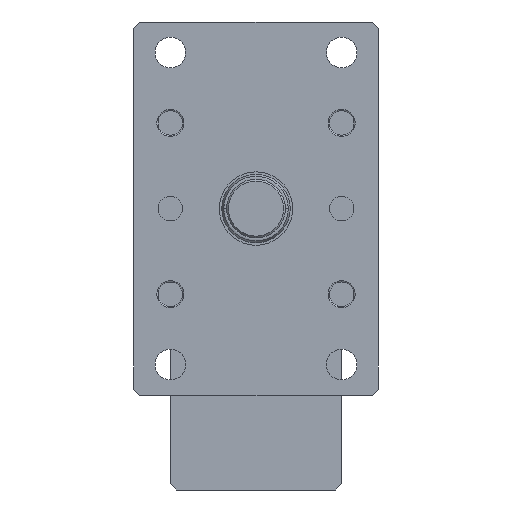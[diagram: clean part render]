
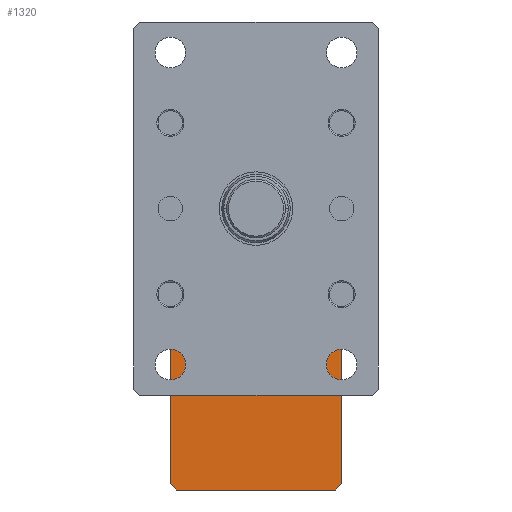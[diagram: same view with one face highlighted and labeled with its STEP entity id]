
A CAD part, left-side view. The second image highlights one B-rep face of the part: STEP entity #1320.
In plain terms, the highlighted planar face has unit normal (-1, 0, 0).
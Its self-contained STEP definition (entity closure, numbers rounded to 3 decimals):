
#4 = VECTOR ( 'NONE', #2817, 1000. ) ;
#99 = CARTESIAN_POINT ( 'NONE',  ( 377.5, 70., -90. ) ) ;
#165 = CARTESIAN_POINT ( 'NONE',  ( 377.5, -70., -95. ) ) ;
#222 = ORIENTED_EDGE ( 'NONE', *, *, #819, .F. ) ;
#248 = EDGE_CURVE ( 'NONE', #4276, #3693, #7066, .T. ) ;
#258 = CARTESIAN_POINT ( 'NONE',  ( 377.5, -70., -95. ) ) ;
#341 = ORIENTED_EDGE ( 'NONE', *, *, #792, .F. ) ;
#345 = EDGE_CURVE ( 'NONE', #4637, #1041, #6196, .T. ) ;
#759 = CARTESIAN_POINT ( 'NONE',  ( 377.5, 65., -230. ) ) ;
#792 = EDGE_CURVE ( 'NONE', #8256, #1585, #4977, .T. ) ;
#819 = EDGE_CURVE ( 'NONE', #1870, #1041, #1302, .T. ) ;
#1041 = VERTEX_POINT ( 'NONE', #7412 ) ;
#1244 = ORIENTED_EDGE ( 'NONE', *, *, #6727, .T. ) ;
#1291 = DIRECTION ( 'NONE',  ( 0., 0., 1. ) ) ;
#1302 = LINE ( 'NONE', #4748, #4771 ) ;
#1320 = ADVANCED_FACE ( 'NONE', ( #3121 ), #6019, .F. ) ;
#1490 = DIRECTION ( 'NONE',  ( 0., 1., 0. ) ) ;
#1577 = VECTOR ( 'NONE', #6338, 1000. ) ;
#1578 = ORIENTED_EDGE ( 'NONE', *, *, #345, .T. ) ;
#1585 = VERTEX_POINT ( 'NONE', #7246 ) ;
#1870 = VERTEX_POINT ( 'NONE', #5321 ) ;
#1979 = LINE ( 'NONE', #759, #7248 ) ;
#2029 = DIRECTION ( 'NONE',  ( 0., 0.707, -0.707 ) ) ;
#2370 = CARTESIAN_POINT ( 'NONE',  ( 377.5, -70., -230. ) ) ;
#2597 = DIRECTION ( 'NONE',  ( 0., 1., 0. ) ) ;
#2810 = ORIENTED_EDGE ( 'NONE', *, *, #6207, .T. ) ;
#2817 = DIRECTION ( 'NONE',  ( 0., -0.707, 0.707 ) ) ;
#3033 = EDGE_LOOP ( 'NONE', ( #5260, #6355, #1244, #1578, #222, #2810, #341, #4857 ) ) ;
#3121 = FACE_OUTER_BOUND ( 'NONE', #3033, .T. ) ;
#3314 = VERTEX_POINT ( 'NONE', #6482 ) ;
#3339 = CARTESIAN_POINT ( 'NONE',  ( 377.5, 70., -230. ) ) ;
#3396 = LINE ( 'NONE', #99, #3811 ) ;
#3440 = CARTESIAN_POINT ( 'NONE',  ( 377.5, 70., -95. ) ) ;
#3533 = CARTESIAN_POINT ( 'NONE',  ( 377.5, -65., -230. ) ) ;
#3681 = LINE ( 'NONE', #3533, #4 ) ;
#3693 = VERTEX_POINT ( 'NONE', #3751 ) ;
#3751 = CARTESIAN_POINT ( 'NONE',  ( 377.5, -65., -90. ) ) ;
#3811 = VECTOR ( 'NONE', #1490, 1000. ) ;
#3839 = CARTESIAN_POINT ( 'NONE',  ( 377.5, -65., -230. ) ) ;
#4276 = VERTEX_POINT ( 'NONE', #258 ) ;
#4637 = VERTEX_POINT ( 'NONE', #7079 ) ;
#4748 = CARTESIAN_POINT ( 'NONE',  ( 377.5, 70., -230. ) ) ;
#4771 = VECTOR ( 'NONE', #1291, 1000. ) ;
#4857 = ORIENTED_EDGE ( 'NONE', *, *, #5067, .T. ) ;
#4977 = LINE ( 'NONE', #3339, #8618 ) ;
#5053 = LINE ( 'NONE', #2370, #8476 ) ;
#5067 = EDGE_CURVE ( 'NONE', #8256, #3314, #3681, .T. ) ;
#5260 = ORIENTED_EDGE ( 'NONE', *, *, #7761, .T. ) ;
#5295 = AXIS2_PLACEMENT_3D ( 'NONE', #6700, #6734, #2597 ) ;
#5321 = CARTESIAN_POINT ( 'NONE',  ( 377.5, 70., -225. ) ) ;
#6019 = PLANE ( 'NONE',  #5295 ) ;
#6196 = LINE ( 'NONE', #3440, #8255 ) ;
#6207 = EDGE_CURVE ( 'NONE', #1870, #1585, #1979, .T. ) ;
#6338 = DIRECTION ( 'NONE',  ( 0., 0.707, 0.707 ) ) ;
#6355 = ORIENTED_EDGE ( 'NONE', *, *, #248, .T. ) ;
#6482 = CARTESIAN_POINT ( 'NONE',  ( 377.5, -70., -225. ) ) ;
#6700 = CARTESIAN_POINT ( 'NONE',  ( 377.5, 70., -230. ) ) ;
#6727 = EDGE_CURVE ( 'NONE', #3693, #4637, #3396, .T. ) ;
#6734 = DIRECTION ( 'NONE',  ( 1., 0., 0. ) ) ;
#6950 = DIRECTION ( 'NONE',  ( 0., -0.707, -0.707 ) ) ;
#7066 = LINE ( 'NONE', #165, #1577 ) ;
#7079 = CARTESIAN_POINT ( 'NONE',  ( 377.5, 65., -90. ) ) ;
#7166 = DIRECTION ( 'NONE',  ( 0., 0., 1. ) ) ;
#7246 = CARTESIAN_POINT ( 'NONE',  ( 377.5, 65., -230. ) ) ;
#7248 = VECTOR ( 'NONE', #6950, 1000. ) ;
#7412 = CARTESIAN_POINT ( 'NONE',  ( 377.5, 70., -95. ) ) ;
#7761 = EDGE_CURVE ( 'NONE', #3314, #4276, #5053, .T. ) ;
#8098 = DIRECTION ( 'NONE',  ( 0., 1., 0. ) ) ;
#8255 = VECTOR ( 'NONE', #2029, 1000. ) ;
#8256 = VERTEX_POINT ( 'NONE', #3839 ) ;
#8476 = VECTOR ( 'NONE', #7166, 1000. ) ;
#8618 = VECTOR ( 'NONE', #8098, 1000. ) ;
